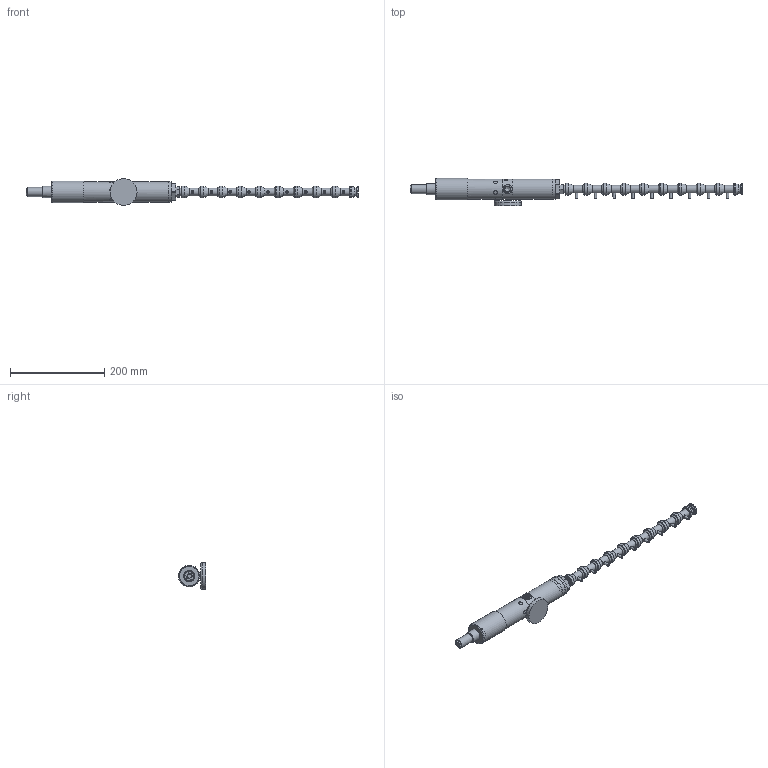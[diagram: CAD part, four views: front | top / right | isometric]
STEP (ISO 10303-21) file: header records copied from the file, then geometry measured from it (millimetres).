
FILE_DESCRIPTION (( 'STEP AP214' ), '1' );
FILE_NAME ('SIMP - CS_15_TD.STEP', '2023-06-02T11:56:52', ( '' ), ( '' ), 'SwSTEP 2.0', 'SolidWorks 2021', '' );
FILE_SCHEMA (( 'AUTOMOTIVE_DESIGN' ));
Length unit declared in the file: millimetre
Products named in the file (1): SIMP - CS_15_TD
Bounding box: 703.89 x 57.97 x 57 mm (x, y, z)
Volume: 474868.1 mm3; surface area: 117712.5 mm2
Topology: 16 solids, 21 shells, 1569 faces, 4108 edges, 2708 vertices
Faces by surface type: plane 920, bspline 305, cylinder 222, cone 71, torus 50, sphere 1
Full cylindrical faces by diameter (mm): 1.8 x9, 3.2 x1, 3.3 x1, 4 x1, 6 x1, 6.5 x1, 7 x1, 8 x6, 9 x1, 9.4 x1, 9.5 x1, 10 x1, 11.8 x7, 12.2 x1, 12.3 x9, 13.16 x1, 14.4 x1, 14.516 x1, 16.2 x1, 16.3 x9, 18.5 x1, 19 x2, 19.3 x1, 21 x10, 23.9 x1, 24.5 x1, 25 x10, 35.8 x1, 39.8 x2, 40 x1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
Entity records: 90852 total; most frequent: CARTESIAN_POINT 38421, ORIENTED_EDGE 7636, DIRECTION 6338, EDGE_CURVE 3818, VERTEX_POINT 2631, AXIS2_PLACEMENT_3D 2365, EDGE_LOOP 1945, FACE_OUTER_BOUND 1701
